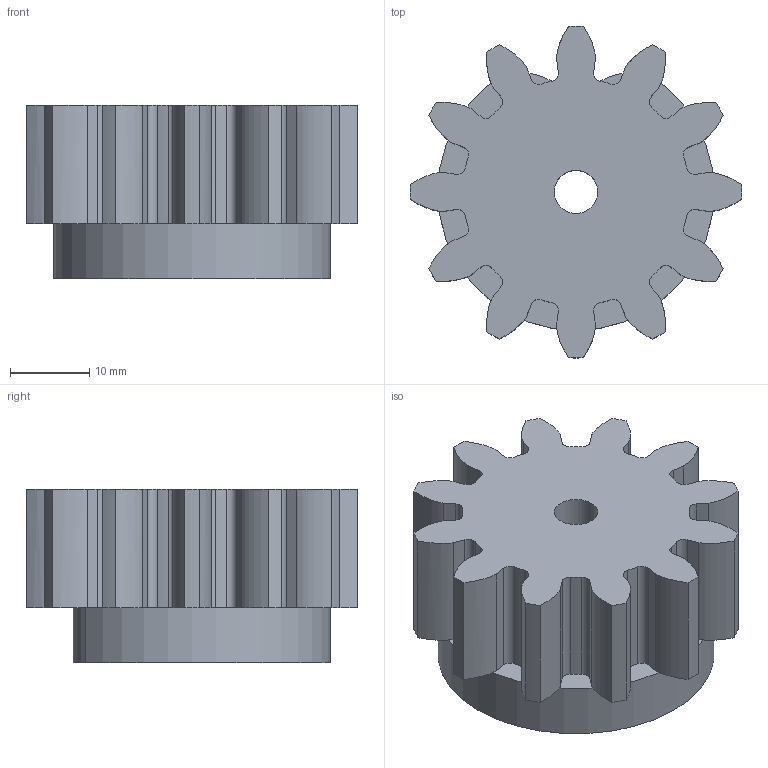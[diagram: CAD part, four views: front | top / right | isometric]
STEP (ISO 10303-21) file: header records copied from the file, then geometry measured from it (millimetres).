
FILE_DESCRIPTION(/* description */ (''),/* implementation_level */ '2;1');
FILE_NAME(/* name */ 'C:/Users/ramar/Desktop/asofij/Pinion v6.step',/* time_stamp */ '2021-02-07T11:45:29-06:00',/* author */ (''),/* organization */ (''),/* preprocessor_version */ 'ST-DEVELOPER v18.1',/* originating_system */ 'Autodesk Translation Framework v9.7.1.1290',/* authorisation */ '');
FILE_SCHEMA (('AUTOMOTIVE_DESIGN { 1 0 10303 214 3 1 1 }'));
Length unit declared in the file: millimetre
Products named in the file (2): Pinion; Spur Gear (12 teeth)
Assembly tree (1 placements, depth 2):
  Pinion
    Spur Gear (12 teeth)
Bounding box: 42 x 42 x 22 mm (x, y, z)
Volume: 20459 mm3; surface area: 8369.4 mm2
Topology: 2 solids, 2 shells, 112 faces, 324 edges, 216 vertices
Faces by surface type: cylinder 55, plane 33, bspline 24
Full cylindrical faces by diameter (mm): 3.5 x2, 5.5 x2
Entity records: 10708 total; most frequent: CARTESIAN_POINT 7816, ORIENTED_EDGE 648, DIRECTION 566, EDGE_CURVE 324, VERTEX_POINT 216, AXIS2_PLACEMENT_3D 200, LINE 166, VECTOR 166
